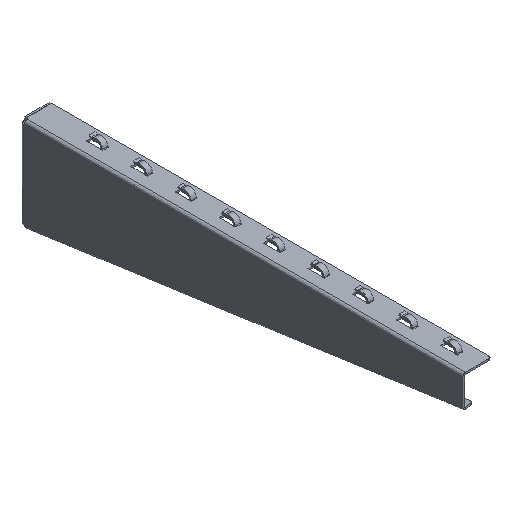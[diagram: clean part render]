
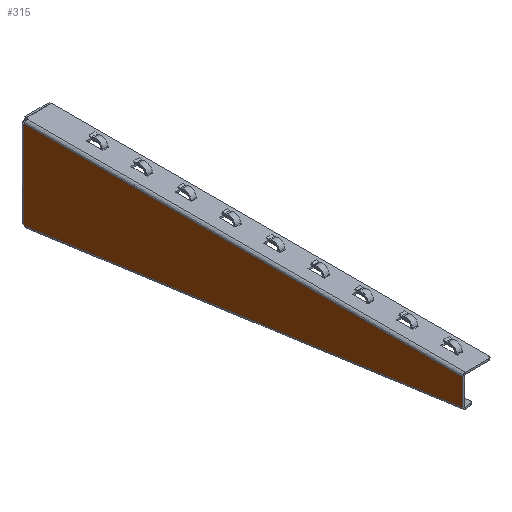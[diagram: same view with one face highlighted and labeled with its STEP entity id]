
A CAD part, isometric view. The second image highlights one B-rep face of the part: STEP entity #315.
In plain terms, the highlighted planar face has unit normal (-1, 0, 0).
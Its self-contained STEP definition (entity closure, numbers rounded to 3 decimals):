
#315=ADVANCED_FACE('',(#519),#3438,.T.);
#519=FACE_OUTER_BOUND('',#736,.T.);
#736=EDGE_LOOP('',(#1752,#1753,#1754,#1755,#1756,#1757,#1758,#1759,#1760,
#1761,#1762,#1763,#1764,#1765));
#1752=ORIENTED_EDGE('',*,*,#2373,.T.);
#1753=ORIENTED_EDGE('',*,*,#2178,.F.);
#1754=ORIENTED_EDGE('',*,*,#2181,.F.);
#1755=ORIENTED_EDGE('',*,*,#2184,.F.);
#1756=ORIENTED_EDGE('',*,*,#2187,.F.);
#1757=ORIENTED_EDGE('',*,*,#2202,.F.);
#1758=ORIENTED_EDGE('',*,*,#2375,.T.);
#1759=ORIENTED_EDGE('',*,*,#2205,.F.);
#1760=ORIENTED_EDGE('',*,*,#2377,.F.);
#1761=ORIENTED_EDGE('',*,*,#2191,.F.);
#1762=ORIENTED_EDGE('',*,*,#2194,.F.);
#1763=ORIENTED_EDGE('',*,*,#2197,.F.);
#1764=ORIENTED_EDGE('',*,*,#2200,.F.);
#1765=ORIENTED_EDGE('',*,*,#2209,.F.);
#2178=EDGE_CURVE('',#3172,#3170,#2639,.T.);
#2181=EDGE_CURVE('',#3174,#3172,#2642,.T.);
#2184=EDGE_CURVE('',#3176,#3174,#2645,.T.);
#2187=EDGE_CURVE('',#3178,#3176,#2648,.T.);
#2191=EDGE_CURVE('',#3182,#3180,#2652,.T.);
#2194=EDGE_CURVE('',#3184,#3182,#2655,.T.);
#2197=EDGE_CURVE('',#3186,#3184,#2658,.T.);
#2200=EDGE_CURVE('',#3188,#3186,#2661,.T.);
#2202=EDGE_CURVE('',#3190,#3178,#2663,.T.);
#2205=EDGE_CURVE('',#3193,#3192,#2804,.T.);
#2209=EDGE_CURVE('',#3168,#3188,#2667,.T.);
#2373=EDGE_CURVE('',#3168,#3170,#2703,.T.);
#2375=EDGE_CURVE('',#3190,#3192,#2705,.T.);
#2377=EDGE_CURVE('',#3180,#3193,#2707,.T.);
#2639=(
BOUNDED_CURVE()
B_SPLINE_CURVE(2,(#6151,#6152,#6153),.UNSPECIFIED.,.F.,.F.)
B_SPLINE_CURVE_WITH_KNOTS((3,3),(1302.005,1302.584),
 .UNSPECIFIED.)
CURVE()
GEOMETRIC_REPRESENTATION_ITEM()
RATIONAL_B_SPLINE_CURVE((1.,0.993,1.))
REPRESENTATION_ITEM('')
);
#2642=(
BOUNDED_CURVE()
B_SPLINE_CURVE(2,(#6159,#6160,#6161),.UNSPECIFIED.,.F.,.F.)
B_SPLINE_CURVE_WITH_KNOTS((3,3),(1301.997,1302.005),
 .UNSPECIFIED.)
CURVE()
GEOMETRIC_REPRESENTATION_ITEM()
RATIONAL_B_SPLINE_CURVE((1.,1.,1.))
REPRESENTATION_ITEM('')
);
#2645=(
BOUNDED_CURVE()
B_SPLINE_CURVE(2,(#6167,#6168,#6169),.UNSPECIFIED.,.F.,.F.)
B_SPLINE_CURVE_WITH_KNOTS((3,3),(1301.167,1301.997),
 .UNSPECIFIED.)
CURVE()
GEOMETRIC_REPRESENTATION_ITEM()
RATIONAL_B_SPLINE_CURVE((1.,0.986,1.))
REPRESENTATION_ITEM('')
);
#2648=(
BOUNDED_CURVE()
B_SPLINE_CURVE(2,(#6175,#6176,#6177),.UNSPECIFIED.,.F.,.F.)
B_SPLINE_CURVE_WITH_KNOTS((3,3),(1301.163,1301.167),
 .UNSPECIFIED.)
CURVE()
GEOMETRIC_REPRESENTATION_ITEM()
RATIONAL_B_SPLINE_CURVE((1.,1.,1.))
REPRESENTATION_ITEM('')
);
#2652=(
BOUNDED_CURVE()
B_SPLINE_CURVE(2,(#6185,#6186,#6187),.UNSPECIFIED.,.F.,.F.)
B_SPLINE_CURVE_WITH_KNOTS((3,3),(1476.454,1477.032),
 .UNSPECIFIED.)
CURVE()
GEOMETRIC_REPRESENTATION_ITEM()
RATIONAL_B_SPLINE_CURVE((1.,0.993,1.))
REPRESENTATION_ITEM('')
);
#2655=(
BOUNDED_CURVE()
B_SPLINE_CURVE(2,(#6193,#6194,#6195),.UNSPECIFIED.,.F.,.F.)
B_SPLINE_CURVE_WITH_KNOTS((3,3),(1476.446,1476.454),
 .UNSPECIFIED.)
CURVE()
GEOMETRIC_REPRESENTATION_ITEM()
RATIONAL_B_SPLINE_CURVE((1.,1.,1.))
REPRESENTATION_ITEM('')
);
#2658=(
BOUNDED_CURVE()
B_SPLINE_CURVE(2,(#6201,#6202,#6203),.UNSPECIFIED.,.F.,.F.)
B_SPLINE_CURVE_WITH_KNOTS((3,3),(1475.264,1476.446),
 .UNSPECIFIED.)
CURVE()
GEOMETRIC_REPRESENTATION_ITEM()
RATIONAL_B_SPLINE_CURVE((1.,0.972,1.))
REPRESENTATION_ITEM('')
);
#2661=(
BOUNDED_CURVE()
B_SPLINE_CURVE(2,(#6209,#6210,#6211),.UNSPECIFIED.,.F.,.F.)
B_SPLINE_CURVE_WITH_KNOTS((3,3),(1475.262,1475.264),
 .UNSPECIFIED.)
CURVE()
GEOMETRIC_REPRESENTATION_ITEM()
RATIONAL_B_SPLINE_CURVE((1.,1.,1.))
REPRESENTATION_ITEM('')
);
#2663=(
BOUNDED_CURVE()
B_SPLINE_CURVE(2,(#6215,#6216,#6217),.UNSPECIFIED.,.F.,.F.)
B_SPLINE_CURVE_WITH_KNOTS((3,3),(1300.577,1301.163),
 .UNSPECIFIED.)
CURVE()
GEOMETRIC_REPRESENTATION_ITEM()
RATIONAL_B_SPLINE_CURVE((1.,0.994,1.))
REPRESENTATION_ITEM('')
);
#2667=(
BOUNDED_CURVE()
B_SPLINE_CURVE(2,(#6236,#6237,#6238),.UNSPECIFIED.,.F.,.F.)
B_SPLINE_CURVE_WITH_KNOTS((3,3),(1474.675,1475.262),
 .UNSPECIFIED.)
CURVE()
GEOMETRIC_REPRESENTATION_ITEM()
RATIONAL_B_SPLINE_CURVE((1.,0.993,1.))
REPRESENTATION_ITEM('')
);
#2703=(
BOUNDED_CURVE()
B_SPLINE_CURVE(1,(#6673,#6674),.UNSPECIFIED.,.F.,.F.)
B_SPLINE_CURVE_WITH_KNOTS((2,2),(0.,96.907),.UNSPECIFIED.)
CURVE()
GEOMETRIC_REPRESENTATION_ITEM()
RATIONAL_B_SPLINE_CURVE((1.,1.))
REPRESENTATION_ITEM('')
);
#2705=(
BOUNDED_CURVE()
B_SPLINE_CURVE(1,(#6677,#6678),.UNSPECIFIED.,.F.,.F.)
B_SPLINE_CURVE_WITH_KNOTS((2,2),(0.,499.961),.UNSPECIFIED.)
CURVE()
GEOMETRIC_REPRESENTATION_ITEM()
RATIONAL_B_SPLINE_CURVE((1.,1.))
REPRESENTATION_ITEM('')
);
#2707=(
BOUNDED_CURVE()
B_SPLINE_CURVE(1,(#6681,#6682),.UNSPECIFIED.,.F.,.F.)
B_SPLINE_CURVE_WITH_KNOTS((2,2),(0.,494.93),.UNSPECIFIED.)
CURVE()
GEOMETRIC_REPRESENTATION_ITEM()
RATIONAL_B_SPLINE_CURVE((1.,1.))
REPRESENTATION_ITEM('')
);
#2804=B_SPLINE_CURVE_WITH_KNOTS('',1,(#6223,#6224),.UNSPECIFIED.,.F.,.F.,
(2,2),(2036.059,2066.016),.UNSPECIFIED.);
#3168=VERTEX_POINT('',#5661);
#3170=VERTEX_POINT('',#5663);
#3172=VERTEX_POINT('',#5665);
#3174=VERTEX_POINT('',#5667);
#3176=VERTEX_POINT('',#5669);
#3178=VERTEX_POINT('',#5671);
#3180=VERTEX_POINT('',#5673);
#3182=VERTEX_POINT('',#5675);
#3184=VERTEX_POINT('',#5677);
#3186=VERTEX_POINT('',#5679);
#3188=VERTEX_POINT('',#5681);
#3190=VERTEX_POINT('',#5683);
#3192=VERTEX_POINT('',#5685);
#3193=VERTEX_POINT('',#5686);
#3438=PLANE('',#3670);
#3670=AXIS2_PLACEMENT_3D('',#5589,#3818,$);
#3818=DIRECTION('',(-1.,0.,0.));
#5589=CARTESIAN_POINT('',(-17.265,-503.774,31.01));
#5661=CARTESIAN_POINT('',(-17.265,-1.979,-3.089));
#5663=CARTESIAN_POINT('',(-17.265,-1.979,-99.995));
#5665=CARTESIAN_POINT('',(-17.265,-2.498,-100.236));
#5667=CARTESIAN_POINT('',(-17.265,-2.504,-100.24));
#5669=CARTESIAN_POINT('',(-17.265,-3.125,-100.78));
#5671=CARTESIAN_POINT('',(-17.265,-3.127,-100.783));
#5673=CARTESIAN_POINT('',(-17.265,-3.568,-1.5));
#5675=CARTESIAN_POINT('',(-17.265,-3.327,-2.019));
#5677=CARTESIAN_POINT('',(-17.265,-3.323,-2.026));
#5679=CARTESIAN_POINT('',(-17.265,-2.498,-2.848));
#5681=CARTESIAN_POINT('',(-17.265,-2.496,-2.849));
#5683=CARTESIAN_POINT('',(-17.265,-3.435,-101.261));
#5685=CARTESIAN_POINT('',(-17.265,-498.499,-31.457));
#5686=CARTESIAN_POINT('',(-17.265,-498.498,-1.5));
#6151=CARTESIAN_POINT('',(-17.265,-2.498,-100.236));
#6152=CARTESIAN_POINT('',(-17.265,-2.252,-100.086));
#6153=CARTESIAN_POINT('',(-17.265,-1.979,-99.995));
#6159=CARTESIAN_POINT('',(-17.265,-2.504,-100.24));
#6160=CARTESIAN_POINT('',(-17.265,-2.501,-100.238));
#6161=CARTESIAN_POINT('',(-17.265,-2.498,-100.236));
#6167=CARTESIAN_POINT('',(-17.265,-3.125,-100.78));
#6168=CARTESIAN_POINT('',(-17.265,-2.86,-100.458));
#6169=CARTESIAN_POINT('',(-17.265,-2.504,-100.24));
#6175=CARTESIAN_POINT('',(-17.265,-3.127,-100.783));
#6176=CARTESIAN_POINT('',(-17.265,-3.126,-100.782));
#6177=CARTESIAN_POINT('',(-17.265,-3.125,-100.78));
#6185=CARTESIAN_POINT('',(-17.265,-3.327,-2.019));
#6186=CARTESIAN_POINT('',(-17.265,-3.477,-1.773));
#6187=CARTESIAN_POINT('',(-17.265,-3.568,-1.5));
#6193=CARTESIAN_POINT('',(-17.265,-3.323,-2.026));
#6194=CARTESIAN_POINT('',(-17.265,-3.325,-2.022));
#6195=CARTESIAN_POINT('',(-17.265,-3.327,-2.019));
#6201=CARTESIAN_POINT('',(-17.265,-2.498,-2.848));
#6202=CARTESIAN_POINT('',(-17.265,-3.009,-2.536));
#6203=CARTESIAN_POINT('',(-17.265,-3.323,-2.026));
#6209=CARTESIAN_POINT('',(-17.265,-2.496,-2.849));
#6210=CARTESIAN_POINT('',(-17.265,-2.497,-2.849));
#6211=CARTESIAN_POINT('',(-17.265,-2.498,-2.848));
#6215=CARTESIAN_POINT('',(-17.265,-3.435,-101.261));
#6216=CARTESIAN_POINT('',(-17.265,-3.308,-101.004));
#6217=CARTESIAN_POINT('',(-17.265,-3.127,-100.783));
#6223=CARTESIAN_POINT('',(-17.265,-498.498,-1.5));
#6224=CARTESIAN_POINT('',(-17.265,-498.499,-31.457));
#6236=CARTESIAN_POINT('',(-17.265,-1.979,-3.089));
#6237=CARTESIAN_POINT('',(-17.265,-2.251,-2.999));
#6238=CARTESIAN_POINT('',(-17.265,-2.496,-2.849));
#6673=CARTESIAN_POINT('',(-17.265,-1.979,-3.089));
#6674=CARTESIAN_POINT('',(-17.265,-1.979,-99.995));
#6677=CARTESIAN_POINT('',(-17.265,-3.435,-101.261));
#6678=CARTESIAN_POINT('',(-17.265,-498.499,-31.457));
#6681=CARTESIAN_POINT('',(-17.265,-3.568,-1.5));
#6682=CARTESIAN_POINT('',(-17.265,-498.498,-1.5));
